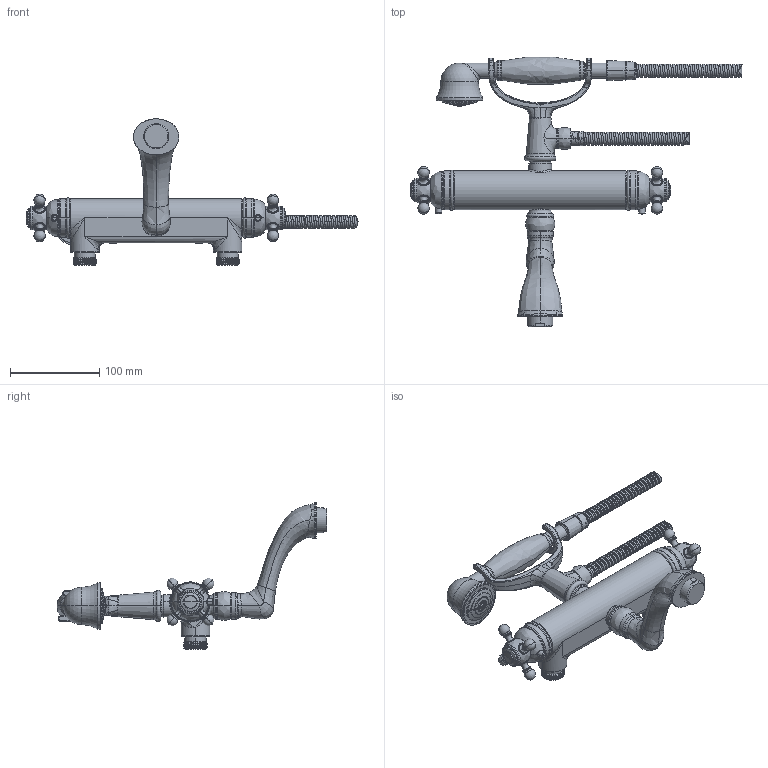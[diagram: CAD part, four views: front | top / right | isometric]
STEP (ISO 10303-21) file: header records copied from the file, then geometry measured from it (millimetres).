
FILE_DESCRIPTION((''),'2;1');
FILE_NAME('37563--_STEP_SW0001','2026-10-01T15:17:53',('simi1'),(''),'CREO PARAMETRIC BY PTC INC, 2022244','CREO PARAMETRIC BY PTC INC, 2022244','');
FILE_SCHEMA(('CONFIG_CONTROL_DESIGN'));
Length unit declared in the file: millimetre
Products named in the file (1): 37563--_STEP_SW0001
Bounding box: 371.59 x 302.06 x 163.9 mm (x, y, z)
Surface area: 138651.6 mm2 (no closed solid volume)
Topology: 0 solids, 45 shells, 810 faces, 2023 edges, 1202 vertices
Faces by surface type: bspline 275, cylinder 206, torus 187, cone 62, plane 52, sphere 28
Entity records: 62532 total; most frequent: CARTESIAN_POINT 45644, ORIENTED_EDGE 3749, DIRECTION 3067, EDGE_CURVE 1996, AXIS2_PLACEMENT_3D 1348, VERTEX_POINT 1202, CIRCLE 813, B_SPLINE_CURVE_WITH_KNOTS 812
